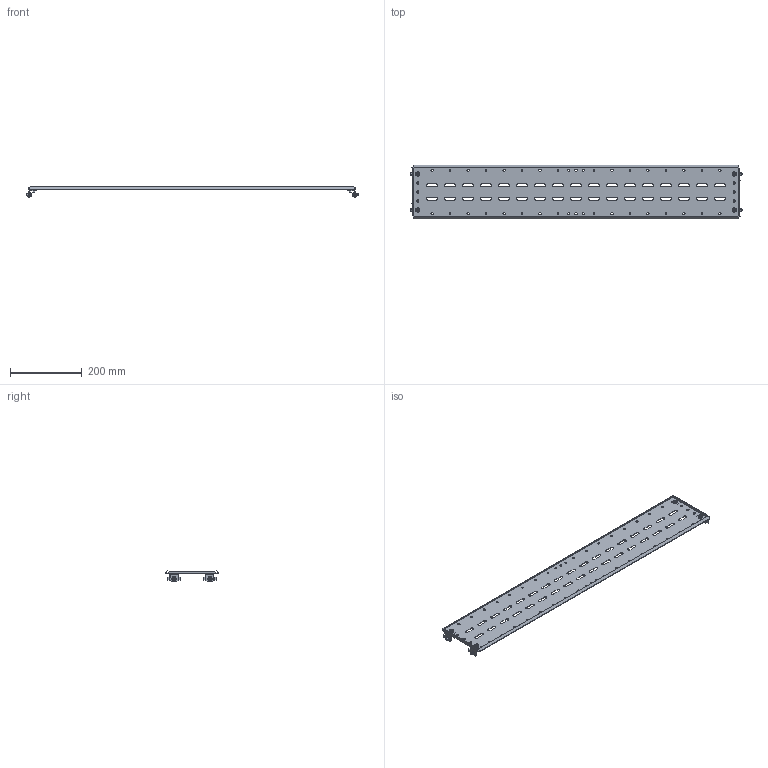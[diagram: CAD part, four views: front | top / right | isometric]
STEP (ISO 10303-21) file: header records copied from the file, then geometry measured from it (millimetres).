
FILE_DESCRIPTION (( 'STEP AP214' ), '1' );
FILE_NAME ('FO-00-SWF-015-100 Ïåðåãîðîäêà ñåêöèîíèðîâàíèÿ çàäíÿÿ 150õ1000 ìì.STEP', '2025-08-12T09:25:32', ( '' ), ( '' ), 'SwSTEP 2.0', 'SolidWorks 2023', '' );
FILE_SCHEMA (( 'AUTOMOTIVE_DESIGN' ));
Length unit declared in the file: millimetre
Products named in the file (1): FO-00-SWF-015-100 Перегородка секционирования задняя 150х1000 мм
Bounding box: 922.4 x 147.66 x 30.52 mm (x, y, z)
Volume: 224635.7 mm3; surface area: 299426.5 mm2
Topology: 1 solids, 5 shells, 666 faces, 1812 edges, 1184 vertices
Faces by surface type: cylinder 366, plane 236, cone 32, torus 32
Entity records: 21631 total; most frequent: DIRECTION 3974, CARTESIAN_POINT 3663, ORIENTED_EDGE 3624, EDGE_CURVE 1812, AXIS2_PLACEMENT_3D 1495, VERTEX_POINT 1184, LINE 984, VECTOR 984
